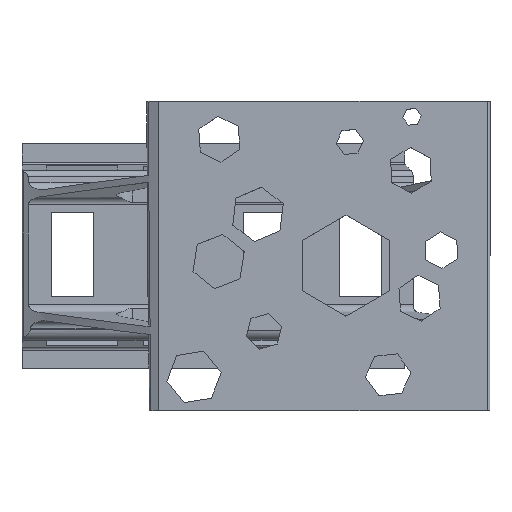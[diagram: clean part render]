
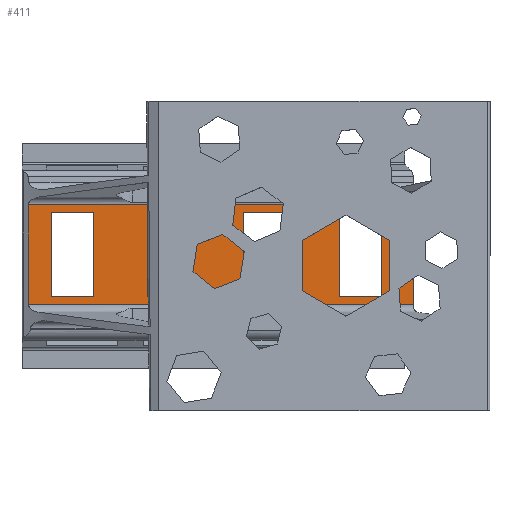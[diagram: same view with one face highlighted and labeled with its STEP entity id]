
A CAD part, top view. The second image highlights one B-rep face of the part: STEP entity #411.
In plain terms, the highlighted planar face has unit normal (0, 0, 1).
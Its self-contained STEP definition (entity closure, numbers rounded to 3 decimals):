
#411=ADVANCED_FACE('',(#782,#783,#784,#785,#786),#604,.T.);
#604=PLANE('',#4611);
#782=FACE_BOUND('',#859,.T.);
#783=FACE_BOUND('',#860,.T.);
#784=FACE_BOUND('',#861,.T.);
#785=FACE_BOUND('',#862,.T.);
#786=FACE_BOUND('',#863,.T.);
#859=EDGE_LOOP('',(#1545,#1546,#1547,#1548));
#860=EDGE_LOOP('',(#1549,#1550,#1551,#1552));
#861=EDGE_LOOP('',(#1553,#1554,#1555,#1556));
#862=EDGE_LOOP('',(#1557,#1558,#1559,#1560));
#863=EDGE_LOOP('',(#1561,#1562,#1563,#1564));
#1545=ORIENTED_EDGE('',*,*,#3230,.F.);
#1546=ORIENTED_EDGE('',*,*,#3231,.F.);
#1547=ORIENTED_EDGE('',*,*,#3232,.F.);
#1548=ORIENTED_EDGE('',*,*,#3233,.F.);
#1549=ORIENTED_EDGE('',*,*,#3234,.F.);
#1550=ORIENTED_EDGE('',*,*,#3235,.F.);
#1551=ORIENTED_EDGE('',*,*,#3236,.F.);
#1552=ORIENTED_EDGE('',*,*,#3237,.F.);
#1553=ORIENTED_EDGE('',*,*,#3238,.F.);
#1554=ORIENTED_EDGE('',*,*,#3239,.F.);
#1555=ORIENTED_EDGE('',*,*,#3240,.F.);
#1556=ORIENTED_EDGE('',*,*,#3241,.F.);
#1557=ORIENTED_EDGE('',*,*,#3242,.F.);
#1558=ORIENTED_EDGE('',*,*,#3243,.F.);
#1559=ORIENTED_EDGE('',*,*,#3244,.F.);
#1560=ORIENTED_EDGE('',*,*,#3245,.F.);
#1561=ORIENTED_EDGE('',*,*,#3159,.T.);
#1562=ORIENTED_EDGE('',*,*,#3246,.T.);
#1563=ORIENTED_EDGE('',*,*,#3194,.T.);
#1564=ORIENTED_EDGE('',*,*,#3247,.T.);
#2708=VERTEX_POINT('',#6674);
#2709=VERTEX_POINT('',#6676);
#2732=VERTEX_POINT('',#6870);
#2733=VERTEX_POINT('',#6872);
#2754=VERTEX_POINT('',#7163);
#2755=VERTEX_POINT('',#7164);
#2756=VERTEX_POINT('',#7166);
#2757=VERTEX_POINT('',#7168);
#2758=VERTEX_POINT('',#7171);
#2759=VERTEX_POINT('',#7172);
#2760=VERTEX_POINT('',#7174);
#2761=VERTEX_POINT('',#7176);
#2762=VERTEX_POINT('',#7179);
#2763=VERTEX_POINT('',#7180);
#2764=VERTEX_POINT('',#7182);
#2765=VERTEX_POINT('',#7184);
#2766=VERTEX_POINT('',#7187);
#2767=VERTEX_POINT('',#7188);
#2768=VERTEX_POINT('',#7190);
#2769=VERTEX_POINT('',#7192);
#3159=EDGE_CURVE('',#2709,#2708,#3759,.T.);
#3194=EDGE_CURVE('',#2733,#2732,#3775,.T.);
#3230=EDGE_CURVE('',#2754,#2755,#3783,.T.);
#3231=EDGE_CURVE('',#2756,#2754,#3784,.T.);
#3232=EDGE_CURVE('',#2757,#2756,#3785,.T.);
#3233=EDGE_CURVE('',#2755,#2757,#3786,.T.);
#3234=EDGE_CURVE('',#2758,#2759,#3787,.T.);
#3235=EDGE_CURVE('',#2760,#2758,#3788,.T.);
#3236=EDGE_CURVE('',#2761,#2760,#3789,.T.);
#3237=EDGE_CURVE('',#2759,#2761,#3790,.T.);
#3238=EDGE_CURVE('',#2762,#2763,#3791,.T.);
#3239=EDGE_CURVE('',#2764,#2762,#3792,.T.);
#3240=EDGE_CURVE('',#2765,#2764,#3793,.T.);
#3241=EDGE_CURVE('',#2763,#2765,#3794,.T.);
#3242=EDGE_CURVE('',#2766,#2767,#3795,.T.);
#3243=EDGE_CURVE('',#2768,#2766,#3796,.T.);
#3244=EDGE_CURVE('',#2769,#2768,#3797,.T.);
#3245=EDGE_CURVE('',#2767,#2769,#3798,.T.);
#3246=EDGE_CURVE('',#2708,#2733,#3799,.T.);
#3247=EDGE_CURVE('',#2732,#2709,#3800,.T.);
#3759=LINE('',#6675,#4275);
#3775=LINE('',#6871,#4291);
#3783=LINE('',#7162,#4299);
#3784=LINE('',#7165,#4300);
#3785=LINE('',#7167,#4301);
#3786=LINE('',#7169,#4302);
#3787=LINE('',#7170,#4303);
#3788=LINE('',#7173,#4304);
#3789=LINE('',#7175,#4305);
#3790=LINE('',#7177,#4306);
#3791=LINE('',#7178,#4307);
#3792=LINE('',#7181,#4308);
#3793=LINE('',#7183,#4309);
#3794=LINE('',#7185,#4310);
#3795=LINE('',#7186,#4311);
#3796=LINE('',#7189,#4312);
#3797=LINE('',#7191,#4313);
#3798=LINE('',#7193,#4314);
#3799=LINE('',#7194,#4315);
#3800=LINE('',#7195,#4316);
#4275=VECTOR('',#5119,1.);
#4291=VECTOR('',#5165,1.);
#4299=VECTOR('',#5203,1.);
#4300=VECTOR('',#5204,1.);
#4301=VECTOR('',#5205,1.);
#4302=VECTOR('',#5206,1.);
#4303=VECTOR('',#5207,1.);
#4304=VECTOR('',#5208,1.);
#4305=VECTOR('',#5209,1.);
#4306=VECTOR('',#5210,1.);
#4307=VECTOR('',#5211,1.);
#4308=VECTOR('',#5212,1.);
#4309=VECTOR('',#5213,1.);
#4310=VECTOR('',#5214,1.);
#4311=VECTOR('',#5215,1.);
#4312=VECTOR('',#5216,1.);
#4313=VECTOR('',#5217,1.);
#4314=VECTOR('',#5218,1.);
#4315=VECTOR('',#5219,1.);
#4316=VECTOR('',#5220,1.);
#4611=AXIS2_PLACEMENT_3D('',#7196,#5221,#5222);
#5119=DIRECTION('',(1.,0.,0.));
#5165=DIRECTION('',(-1.,0.,0.));
#5203=DIRECTION('',(0.,-1.,0.));
#5204=DIRECTION('',(-1.,0.,0.));
#5205=DIRECTION('',(0.,1.,0.));
#5206=DIRECTION('',(1.,0.,0.));
#5207=DIRECTION('',(0.,-1.,0.));
#5208=DIRECTION('',(-1.,0.,0.));
#5209=DIRECTION('',(0.,1.,0.));
#5210=DIRECTION('',(1.,0.,0.));
#5211=DIRECTION('',(0.,-1.,0.));
#5212=DIRECTION('',(-1.,0.,0.));
#5213=DIRECTION('',(0.,1.,0.));
#5214=DIRECTION('',(1.,0.,0.));
#5215=DIRECTION('',(0.,-1.,0.));
#5216=DIRECTION('',(-1.,0.,0.));
#5217=DIRECTION('',(0.,1.,0.));
#5218=DIRECTION('',(1.,0.,0.));
#5219=DIRECTION('',(0.,1.,0.));
#5220=DIRECTION('',(0.,-1.,0.));
#5221=DIRECTION('',(0.,0.,1.));
#5222=DIRECTION('',(1.,0.,0.));
#6674=CARTESIAN_POINT('',(50.603,-11.819,-15.611));
#6675=CARTESIAN_POINT('',(48.,-11.819,-15.611));
#6676=CARTESIAN_POINT('',(-46.386,-11.819,-15.611));
#6870=CARTESIAN_POINT('',(-46.386,13.321,-15.611));
#6871=CARTESIAN_POINT('',(-48.,13.321,-15.611));
#6872=CARTESIAN_POINT('',(50.603,13.321,-15.611));
#7162=CARTESIAN_POINT('',(31.922,-13.356,-15.611));
#7163=CARTESIAN_POINT('',(31.922,11.321,-15.611));
#7164=CARTESIAN_POINT('',(31.922,-9.679,-15.611));
#7165=CARTESIAN_POINT('',(48.,11.321,-15.611));
#7166=CARTESIAN_POINT('',(42.614,11.321,-15.611));
#7167=CARTESIAN_POINT('',(42.614,-13.356,-15.611));
#7168=CARTESIAN_POINT('',(42.614,-9.679,-15.611));
#7169=CARTESIAN_POINT('',(48.,-9.679,-15.611));
#7170=CARTESIAN_POINT('',(7.755,-13.356,-15.611));
#7171=CARTESIAN_POINT('',(7.755,11.321,-15.611));
#7172=CARTESIAN_POINT('',(7.755,-9.679,-15.611));
#7173=CARTESIAN_POINT('',(48.,11.321,-15.611));
#7174=CARTESIAN_POINT('',(18.447,11.321,-15.611));
#7175=CARTESIAN_POINT('',(18.447,-13.356,-15.611));
#7176=CARTESIAN_POINT('',(18.447,-9.679,-15.611));
#7177=CARTESIAN_POINT('',(48.,-9.679,-15.611));
#7178=CARTESIAN_POINT('',(-16.412,-13.356,-15.611));
#7179=CARTESIAN_POINT('',(-16.412,11.321,-15.611));
#7180=CARTESIAN_POINT('',(-16.412,-9.679,-15.611));
#7181=CARTESIAN_POINT('',(48.,11.321,-15.611));
#7182=CARTESIAN_POINT('',(-5.719,11.321,-15.611));
#7183=CARTESIAN_POINT('',(-5.719,-13.356,-15.611));
#7184=CARTESIAN_POINT('',(-5.719,-9.679,-15.611));
#7185=CARTESIAN_POINT('',(48.,-9.679,-15.611));
#7186=CARTESIAN_POINT('',(-40.578,-13.356,-15.611));
#7187=CARTESIAN_POINT('',(-40.578,11.321,-15.611));
#7188=CARTESIAN_POINT('',(-40.578,-9.679,-15.611));
#7189=CARTESIAN_POINT('',(48.,11.321,-15.611));
#7190=CARTESIAN_POINT('',(-29.886,11.321,-15.611));
#7191=CARTESIAN_POINT('',(-29.886,-13.356,-15.611));
#7192=CARTESIAN_POINT('',(-29.886,-9.679,-15.611));
#7193=CARTESIAN_POINT('',(48.,-9.679,-15.611));
#7194=CARTESIAN_POINT('',(50.603,-35.811,-15.611));
#7195=CARTESIAN_POINT('',(-46.386,-44.862,-15.611));
#7196=CARTESIAN_POINT('',(48.,-13.356,-15.611));
